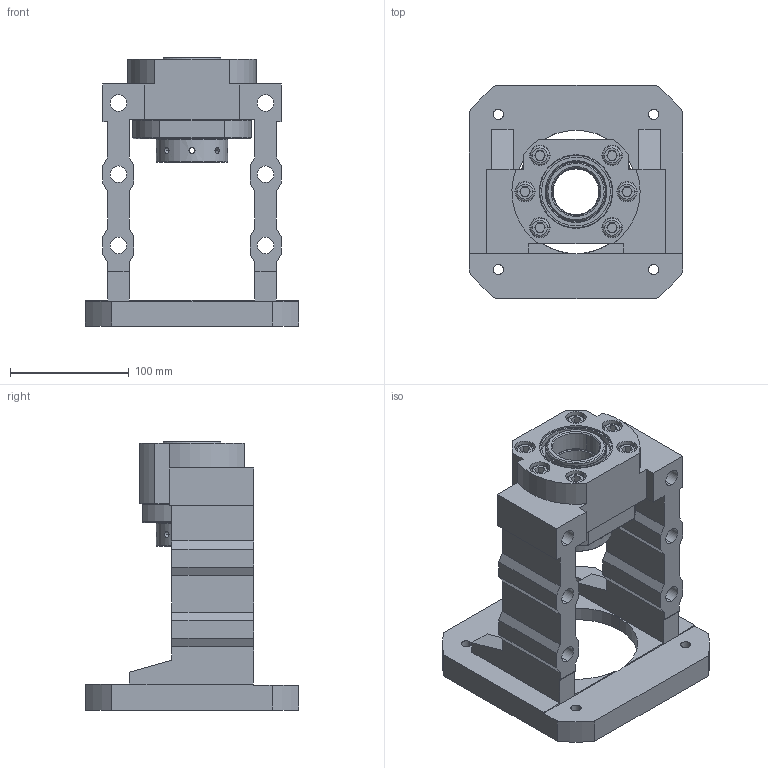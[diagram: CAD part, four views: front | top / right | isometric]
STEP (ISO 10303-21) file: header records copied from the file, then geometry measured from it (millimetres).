
FILE_DESCRIPTION (( 'STEP AP203' ), '1' );
FILE_NAME ('MBCS40-J²Õ¦X¥ó.STEP', '2024-09-03T06:29:32', ( '' ), ( '' ), 'SwSTEP 2.0', 'SolidWorks 2018', '' );
FILE_SCHEMA (( 'CONFIG_CONTROL_DESIGN' ));
Length unit declared in the file: millimetre
Products named in the file (1): MBCS40-J組合件
Bounding box: 180 x 180 x 226 mm (x, y, z)
Surface area: 233223.4 mm2 (no closed solid volume)
Topology: 0 solids, 21 shells, 342 faces, 969 edges, 641 vertices
Faces by surface type: plane 136, cylinder 114, cone 62, torus 18, bspline 12
Entity records: 26595 total; most frequent: CARTESIAN_POINT 17719, DIRECTION 1856, ORIENTED_EDGE 1710, EDGE_CURVE 961, AXIS2_PLACEMENT_3D 692, VERTEX_POINT 641, VECTOR 472, LINE 472
